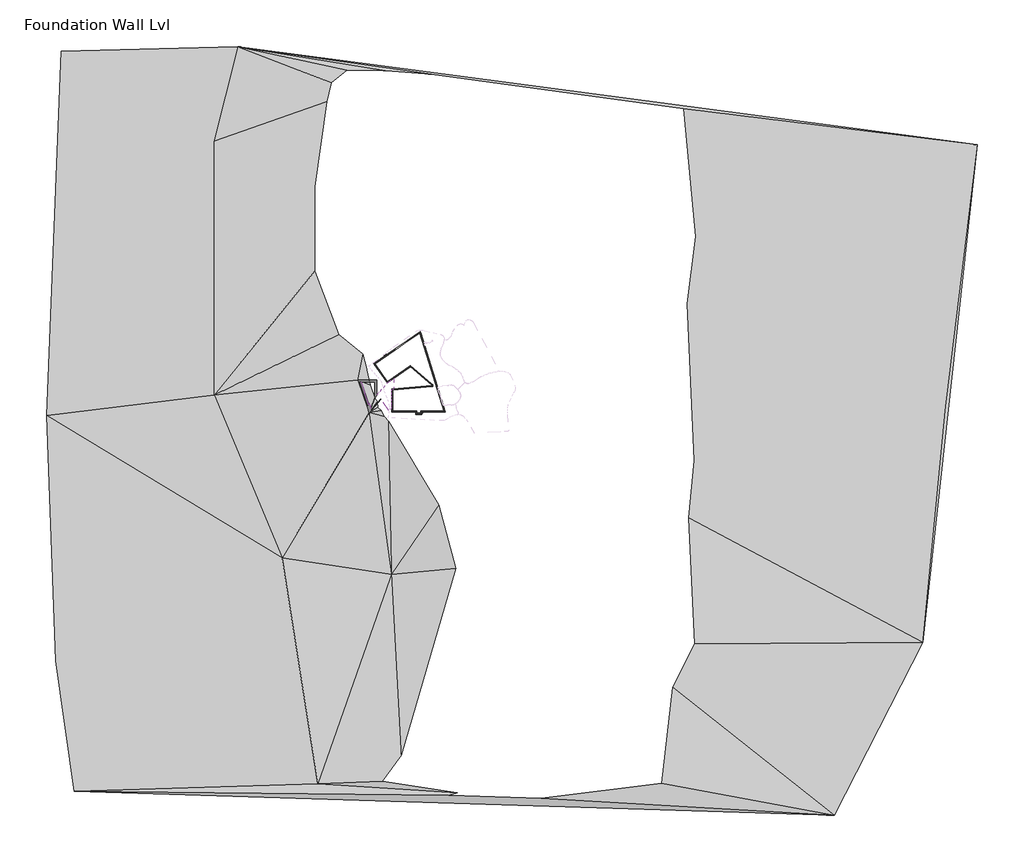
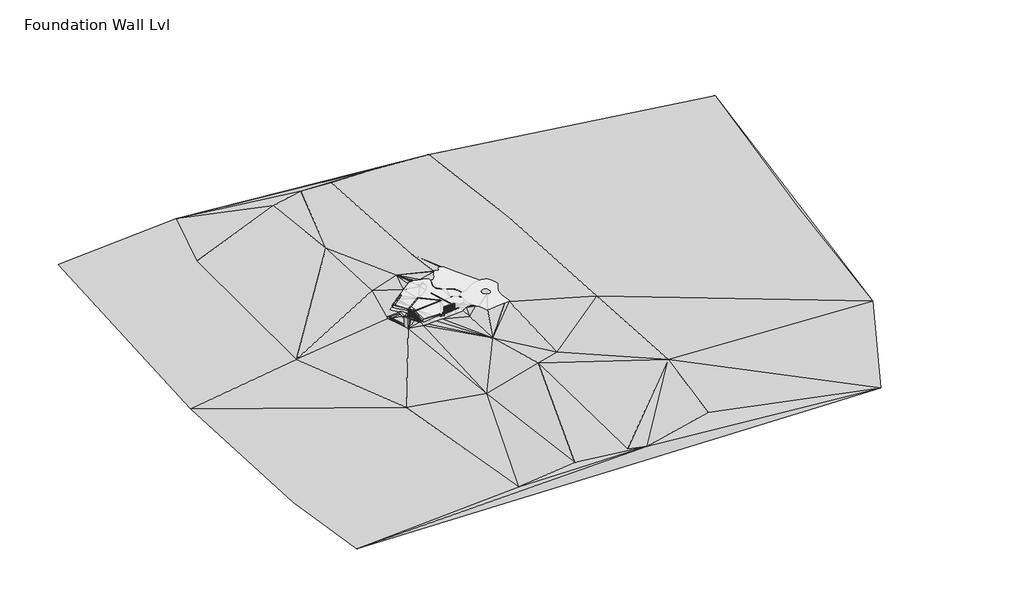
# One storey, part 1 of 2: 16 walls, 3 furniture elements, 2 stairs, 1 proxy.
"""IFC4 building model written with IfcOpenShell, lengths in millimetres."""

from ifc_helpers import new_model, si_unit, frame, origin, place, context, project, spatial, polyline, outline, extrude, faceted_brep, triangles, transform, mapped, element, save
from components import casework_1_casework_1_4e80d40b, casework_2_casework_2_b667cc68, casework_3_casework_3_36dc1b48, stairs_1_stairs_1_18d21c23, stairs_2_stairs_2_ca189b1b, walls_2_walls_2_54b32427

model = new_model("IFC4")

# Units and contexts
model_context = context("Model", 3, world=origin())
ifc_project = project(units=[si_unit("LENGTHUNIT", "METRE", prefix="MILLI")], contexts=[model_context])

# Site, building, storey
site = spatial("IfcSite", under=ifc_project)
building = spatial("IfcBuilding", under=site)
storey = spatial("IfcBuildingStorey", under=building, Name="Foundation Wall Lvl", Elevation=-2600.0)

# Proxy
placement = place(None, origin())
element("IfcBuildingElementProxy", 1, Name="Building Element Proxy", at=placement, inside=storey, context=model_context, shape_type="Tessellation", body=[
    triangles([(-52877.8561157, 103949.4317871, -3000.0000229), (-105067.010083, 102590.3426514, -5000.0000381), (-109416.1027588, -5049.7888596, -5000.0000381), (-106697.9244873, -77625.331604, -5000.0000381), (-101261.5493408, -116223.5570068, -5000.0000381), (123317.5519043, -123230.7479004, -5000.0000381), (149400.8621338, -72152.4005493, -5000.0000381), (165594.9713379, 74911.6042236, -5000.0000381), (13775.4766022, 5546.157399, -130.0574957), (13381.2715942, 6573.0958786, -134.0598858), (12763.2255981, 7601.6964661, -138.6685253), (12061.3835541, 8248.5418671, -142.4082589), (11297.8464386, 8821.2569092, -146.1013292), (10480.407962, 9313.9919495, -149.7100116), (10408.6483887, 9347.8951126, -150.0000011), (9617.4181961, 9721.7170624, -141.4121714), (9049.7034302, 10000.5814362, -135.1684028), (8523.4640396, 10351.4914124, -128.6694172), (8047.7895859, 10768.3834076, -122.0274626), (7630.8970093, 11244.0578613, -115.3572756), (7279.9876144, 11770.2978333, -108.7740837), (7001.1232407, 12338.0120178, -102.3915972), (6917.9538986, 12883.3124542, -97.5939976), (6914.7197937, 13434.9090179, -93.3248268), (6991.488945, 13981.1466064, -89.6742956), (7146.6381958, 14510.4840637, -86.7195432), (7376.8904205, 15011.736026, -84.522984), (7676.8854813, 15651.2876862, -81.7652399), (7891.775853, 16324.2245178, -78.1362917), (8017.9634995, 17019.2786041, -73.6969415), (8053.3351776, 17724.8076324, -68.5215216), (8146.4579819, 17516.6842896, -70.795597), (8306.4197296, 17354.2046722, -73.200719), (8513.0646744, 17257.8442749, -75.4338086), (8740.3525452, 17239.7465424, -77.2134828), (8959.6432297, 17302.1892426, -78.3154686), (9302.6193878, 17495.7553345, -79.3008191), (9620.9040298, 17727.6946655, -79.8126065), (9910.2241608, 17994.8923096, -79.8439364), (10167.4956665, 18318.7806793, -79.2076108), (10358.3107635, 18685.7722321, -77.7598975), (10475.6733673, 19082.4061615, -75.5538776), (10515.2779266, 19494.140332, -72.6704553), (10515.2779266, 19573.4052612, -72.0603272), (10529.2305634, 19659.0767761, -71.5015768), (10569.646701, 19735.895343, -71.2019675), (11892.2589935, 21491.0626282, -67.237284), (12133.7849487, 21736.8406494, -67.0885603), (12430.6935699, 21911.7322998, -67.8851687), (12762.7500458, 22003.8197021, -69.5728246), (13107.3255249, 22006.8264954, -72.0365187), (13440.9388824, 21920.5480408, -75.1083515), (13740.8542969, 21750.8653748, -78.5789791), (13806.6746979, 21701.2660767, -79.4358036), (13894.5914246, 21669.2657043, -80.3166092), (13985.3707672, 21691.8992065, -80.7975573), (14047.9739227, 21761.4275208, -80.7141958), (14547.6852814, 22833.0621094, -76.0719282), (14691.1474548, 23045.7537781, -75.4701527), (14893.3130219, 23203.7022766, -75.7134154), (15134.3936554, 23291.4480835, -76.777908), (15390.7907959, 23300.4010254, -78.5594218), (15637.4048126, 23229.6867371, -80.8835804), (15953.9320038, 23082.0864441, -84.3041202), (16201.5831665, 22932.0932739, -87.24601), (16411.2343231, 22732.4008118, -90.296169), (16573.0965363, 22492.3387207, -93.3121913), (19170.5926392, 17563.1779633, -150.0000011), (21957.1341797, 12275.2739868, -127.3575605), (24210.3896667, 7999.3640533, -131.2463312), (24694.6833618, 8041.7341415, -132.441816), (25162.5501526, 8048.5395401, -133.5839792), (25626.4636963, 7987.4641983, -134.6911155), (26076.6292419, 7859.7975723, -135.7398523), (26807.1520935, 7593.9091507, -137.4197734), (27065.0223999, 7468.8324829, -138.0010969), (27292.0201721, 7293.8635117, -138.488549), (27478.6297119, 7076.3349289, -138.8617094), (27617.0305664, 6825.3630386, -139.1049358), (28903.0288147, 3795.7398239, -141.1039326), (28995.0883118, 3273.6423317, -141.1328552), (29026.4933716, 2863.1700027, -141.0557887), (28977.2126587, 2454.4580315, -140.7828584), (28849.1460571, 2063.2131626, -140.324547), (28647.2118713, 1704.4706703, -139.6984679), (28343.1281067, 1270.1960152, -138.7953344), (27709.2016846, -89.2656542, -136.7426527), (26863.9649048, -1901.881295, -134.0057376), (26721.9945007, -2616.1362442, -133.3927209), (26640.6436523, -3339.805735, -132.9238451), (26620.4867432, -4067.7546158, -132.6024166), (26661.6702759, -4794.8169228, -132.4307338), (27120.7469055, -9430.1505569, -131.8148375), (27104.6990479, -9560.7077042, -131.7269068), (27034.3405518, -9671.849176, -131.5139475), (27009.8536743, -9696.3360535, -131.4451472), (26913.3572388, -9763.278479, -131.1850613), (26799.5269775, -9792.1871796, -130.8969884), (24825.7683838, -9930.2054993, -126.0377192), (17046.7246033, -10474.168808, -189.2564167), (15107.4859955, -6975.6904907, -125.9028165), (14307.126709, -5951.2762756, -108.8874761), (13997.7211761, -5614.8008835, -103.6059216), (13720.040451, -5396.2874771, -100.6828715), (13638.5000793, -5332.1216263, -100.5082637), (13444.9386383, -5224.8293381, -100.076931), (13281.9009155, -5134.4557846, -100.774036), (13238.704715, -5110.5118973, -100.3689644), (12808.6216644, -4955.6719299, -93.5646741), (12359.3142059, -4871.5866554, -83.8802725), (11866.864032, -4960.1600281, -67.2721928), (11536.5562866, -5019.5697739, -66.1874298), (10733.4355408, -5251.5753799, -67.624833), (9958.5084229, -5565.1324036, -73.1863395), (9220.0314056, -5956.8997696, -82.812705), (8774.7254471, -6255.7146698, -91.5298964), (8525.8720322, -6422.7033142, -118.4000132), (8286.3052597, -6548.561911, -142.4862701), (8019.4041092, -6593.2469742, -164.44465), (5181.8337067, -6572.0017593, -372.564323), (2346.0608688, -6468.7865479, -576.3676898), (-485.5460532, -6283.6879623, -775.6846298), (-2893.5916924, -6134.626712, -945.6132837), (-6395.2172012, -5917.8707565, -1158.484956), (-8410.3773376, -5793.1295334, -1310.5176819), (-8228.3785629, -4335.2159065, -1249.6619488), (-8087.3563568, -3205.5531738, -1200.0000092), (-8009.4523911, -2581.4988235, -1116.2708902), (-8378.0211731, -990.6996305, -1036.9188297), (-8753.0215393, 39.6043822, -1017.7466715), (-9339.3874924, 1545.3324188, -998.7884537), (-9457.0169403, 1847.3929058, -1002.7374132), (-9718.3730804, 2518.5291206, -955.3798388), (-9986.5276428, 3453.696167, -871.5951273), (-10093.5943634, 3827.0835503, -896.3100431), (-10297.2110046, 4537.1785789, -906.2836349), (-10673.9356842, 5208.9465866, -953.1027975), (-11126.6417725, 5832.0440186, -1017.5019917), (-11649.1168579, 6397.9176178, -1098.597187), (-12291.7218201, 7056.2780136, -1200.0000092), (-12349.2752838, 7115.2436005, -1204.0212027), (-13003.8411438, 7874.4030762, -1248.0223686), (-13610.3192413, 8672.5026169, -1286.9380165), (-13932.2379639, 9155.3109375, -1306.4369717), (-14166.3992523, 9506.5017105, -1319.4387943), (-12988.6990448, 10409.4541534, -1196.5959291), (-9905.9174469, 12773.0505798, -929.6234894), (-9316.787709, 13237.2978241, -878.3490755), (-8740.1984848, 13717.0313324, -827.6507166), (-7888.2958328, 14413.341156, -752.9983692), (-7006.5752335, 15071.4858673, -677.0035166), (-3733.5706535, 17361.5588745, -398.0144048), (-500.8516233, 19708.1551758, -120.7381245), (-7.0311524, 19975.8295349, -80.2266801), (522.319281, 20163.6994629, -38.8130424), (736.1762129, 20172.108252, -23.453206), (1056.704468, 20184.7074829, -3.9637859), (1087.9279255, 20185.9353149, -2.8357349), (1138.1944794, 20181.3169922, -0.8119869), (1358.6673592, 20161.0600891, -1.4527699), (1651.5991882, 20134.1454529, -3.7740588), (2203.6864197, 20009.2158691, -8.7201476), (2734.741214, 19813.285968, -14.0609604), (4829.8883286, 19329.2503967, -32.9076434), (6940.7757614, 18919.2672821, -51.2979135), (7249.0249695, 18788.406665, -54.529852), (7524.2017776, 18597.5671509, -57.9847828), (7754.7940979, 18354.7319733, -61.518179), (7931.1560074, 18070.0598145, -64.9822209), (8045.9094681, 17755.4592499, -68.2319953), (8007.9524826, 17031.1929932, -73.5329753), (7877.9743698, 16323.0222656, -78.0459447), (7664.2909012, 15651.1865295, -81.67512), (7136.0184952, 14518.3010284, -86.5827238), (6977.5270065, 13965.5754639, -89.6933897), (6903.7652298, 13440.7342438, -93.2009336), (6903.7652298, 12880.7335419, -97.5114444), (6989.0216537, 12342.4431427, -102.2701565), (7269.5795288, 11767.2154633, -108.7226878), (7620.9580811, 11238.2942596, -115.3299153), (8034.3718002, 10769.5565918, -121.9215915), (8513.8134659, 10345.6045624, -128.6450728), (9041.6992676, 9993.7190643, -135.1634613), (10400.6907349, 9340.4345215, -150.0000011), (10470.2155609, 9307.0133057, -149.7173967), (11288.8109436, 8815.1514679, -146.1081057), (12055.5001923, 8237.409407, -142.3921625), (12755.4493286, 7595.0910553, -138.6704965), (13369.6967194, 6572.8115936, -134.090171), (13756.7335602, 5564.5446487, -130.1605508), (14191.1605316, 4632.9145958, -126.3232305), (14198.0949921, 4639.8493469, -126.3244659), (12076.7744751, 2518.5291206, -125.9451649), (12608.0141418, 1792.4936405, -122.4369034), (12536.6371033, 1908.2708759, -122.9605088), (20935.5593262, -206.6307378, -120.1996944), (21141.8351074, -534.9176399, -120.5793224), (21407.6677185, -817.1517208, -121.1212406), (21723.0298645, -1042.6917332, -121.8050197), (22076.0338989, -1203.034199, -122.6048801), (22453.3713318, -1292.1336296, -123.4906545), (22840.8151245, -1306.6307098, -124.4289511), (23162.3954956, -1245.3095982, -125.2351883), (23457.8053711, -1104.21276, -126.0075248), (23707.6133789, -892.6206608, -126.6951555), (23895.3879639, -624.450111, -127.2528522), (24008.7810425, -317.3392419, -127.6439439), (24040.332605, 8.5125567, -127.8427053), (23987.9683594, 331.6733597, -127.836047), (23949.4962891, 724.8312658, -127.8894231), (23816.5369629, 1096.8185165, -127.7047232), (23597.0736145, 1425.2839325, -127.2930478), (23304.2984619, 1690.491291, -126.6791227), (22955.7988037, 1876.505373, -125.8998461), (22572.5152222, 1972.1493896, -125.0020448), (22177.4811951, 1971.6764534, -124.039649), (21794.427832, 1875.1149055, -123.0704948), (21446.3746582, 1688.2668629, -122.1528183), (21154.2343506, 1422.3592564, -121.3417486), (20935.5593262, 1093.3692358, -120.6860383), (20820.9686462, 777.3066965, -120.2886788), (20782.0779968, 443.3692672, -120.0690156), (20820.9686462, 109.4318288, -120.0388212), (8958.9979202, 3761.6288246, -137.8855971), (9769.1025421, 3832.5035683, -135.9118803), (9602.9859375, 3831.1210945, -136.3542861), (48795.2355469, 89270.9789063, -150.0000011), (54550.1865967, 38709.6534851, -200.0000015), (57222.1258301, -23156.0330933, -200.0000015), (59701.1977661, -72795.9519653, -200.0000015), (55324.9207031, -110619.4990723, -200.0000015), (24690.9719604, -117496.5025635, -900.0000069), (25941.3375, -47163.4653809, -600.0000046), (29022.1052673, 26800.0525269, -150.0000011), (25003.5645081, 91314.4727783, -150.0000011), (7871.5218567, 91943.3367187, -300.0000023), (10337.9282867, 35832.5918884, -150.0000011), (13420.9354523, -5274.1780701, -100.0000008), (16298.4098145, -49875.0208008, -500.0000038), (17472.7532501, -115489.9180664, -900.0000069), (9582.9569275, -27077.3774597, -600.0000046), (9007.6437881, -10676.6180786, -300.0000023), (-1289.7946735, 26800.0525269, -300.0000023), (-4704.9224098, 93343.2419678, -600.0000046), (-18354.2482819, 90505.2663574, -1000.0000076), (-13918.2178894, 23335.5895752, -1000.0000076), (-11409.203595, 3000.2011734, -1200.0000092), (-10057.6605103, 1245.3008778, -1200.0000092), (-7484.1641052, -52074.3935303, -5000.0000381), (-4222.3419823, -112961.7375, -900.0000069), (-29229.6460876, -114049.0106689, -3000.0000229), (-39830.5687866, -47181.6596191, -3000.0000229), (-59945.1363647, 930.2185839, -3000.0000229), (-59945.1363647, 75952.1267578, -3000.0000229), (-15266.397226, 55854.1209595, -600.0000046), (155938.7514404, -4322.2044914, -5000.0000381), (-17480.5957947, 5345.5510391, -1700.000013), (-14081.1056213, -4246.7169479, -1700.000013)], [[4, 5, 251], [125, 258, 249], [251, 252, 4], [5, 232, 251], [4, 252, 3], [254, 3, 253], [3, 252, 253], [253, 258, 257], [129, 248, 258], [252, 258, 253], [248, 247, 258], [252, 249, 258], [258, 126, 127], [258, 127, 129], [129, 127, 128], [248, 131, 132], [131, 248, 130], [130, 248, 129], [258, 125, 126], [252, 251, 249], [133, 248, 132], [257, 142, 143], [142, 257, 141], [140, 141, 257], [257, 247, 140], [144, 145, 257], [144, 257, 143], [246, 257, 145], [253, 257, 246], [247, 135, 136], [135, 247, 134], [133, 134, 247], [247, 248, 133], [139, 247, 138], [137, 138, 247], [136, 137, 247], [247, 139, 140], [257, 258, 247], [146, 246, 145], [241, 124, 125], [250, 249, 251], [242, 119, 120], [241, 249, 239], [121, 242, 120], [123, 124, 241], [241, 122, 123], [242, 121, 122], [241, 125, 249], [117, 118, 242], [114, 242, 113], [242, 118, 119], [122, 241, 242], [117, 242, 116], [115, 116, 242], [242, 114, 115], [249, 250, 239], [19, 182, 18], [182, 19, 181], [183, 18, 182], [21, 179, 180], [181, 19, 20], [181, 20, 180], [20, 21, 180], [17, 18, 183], [225, 226, 224], [185, 14, 15], [186, 14, 185], [17, 183, 16], [184, 15, 16], [15, 184, 185], [184, 16, 183], [100, 242, 241], [251, 232, 250], [246, 147, 148], [246, 148, 149], [246, 149, 150], [246, 151, 152], [153, 154, 243], [243, 152, 153], [150, 151, 246], [176, 177, 24], [175, 24, 25], [23, 24, 177], [177, 178, 23], [176, 24, 175], [243, 163, 164], [164, 47, 243], [254, 255, 245], [254, 253, 255], [246, 243, 255], [246, 152, 243], [3, 254, 2], [244, 255, 236], [2, 254, 1], [245, 244, 1], [244, 245, 255], [254, 245, 1], [235, 1, 244], [162, 163, 243], [246, 255, 253], [161, 162, 243], [160, 161, 243], [156, 157, 243], [158, 159, 243], [157, 158, 243], [160, 243, 159], [155, 156, 243], [154, 155, 243], [237, 255, 243], [165, 47, 164], [146, 147, 246], [22, 23, 178], [22, 178, 179], [174, 26, 27], [26, 174, 25], [28, 173, 27], [173, 174, 27], [172, 28, 29], [29, 30, 172], [171, 172, 30], [35, 36, 34], [34, 36, 33], [172, 173, 28], [37, 169, 170], [32, 36, 31], [31, 170, 171], [39, 168, 169], [255, 237, 236], [45, 166, 167], [168, 44, 167], [165, 166, 46], [33, 36, 32], [171, 30, 31], [37, 38, 169], [170, 36, 37], [39, 169, 38], [39, 40, 168], [41, 168, 40], [48, 237, 243], [44, 168, 43], [42, 43, 168], [41, 42, 168], [44, 45, 167], [31, 36, 170], [236, 237, 235], [175, 25, 174], [22, 179, 21], [235, 244, 236], [108, 238, 107], [102, 238, 112], [238, 106, 107], [106, 238, 105], [112, 113, 102], [112, 238, 111], [109, 111, 238], [108, 109, 238], [111, 109, 110], [101, 102, 242], [242, 100, 101], [241, 233, 98], [102, 113, 242], [105, 238, 104], [103, 104, 238], [103, 238, 102], [239, 233, 241], [250, 240, 239], [223, 196, 220], [218, 219, 196], [221, 222, 220], [220, 222, 223], [196, 219, 220], [196, 197, 218], [200, 209, 199], [209, 200, 201], [201, 202, 209], [212, 213, 197], [218, 197, 217], [197, 198, 211], [199, 209, 198], [213, 214, 197], [202, 203, 205], [239, 240, 230], [241, 99, 100], [98, 99, 241], [97, 98, 233], [233, 229, 97], [229, 95, 96], [96, 97, 229], [239, 230, 233], [229, 233, 230], [230, 231, 6], [6, 7, 230], [231, 232, 6], [230, 7, 229], [93, 94, 229], [85, 93, 84], [256, 229, 7], [95, 229, 94], [93, 85, 92], [7, 8, 256], [230, 232, 231], [232, 5, 6], [229, 84, 93], [205, 206, 202], [207, 202, 206], [202, 208, 209], [212, 197, 211], [211, 198, 210], [209, 210, 198], [207, 208, 202], [203, 204, 205], [87, 89, 90], [87, 88, 89], [90, 91, 87], [85, 86, 87], [91, 92, 87], [92, 85, 87], [229, 256, 228], [240, 232, 230], [240, 250, 232], [12, 187, 11], [195, 193, 194], [14, 186, 13], [13, 186, 187], [187, 12, 13], [190, 9, 10], [9, 190, 191], [191, 192, 9], [188, 11, 187], [11, 188, 189], [189, 10, 11], [10, 189, 190], [47, 165, 46], [49, 237, 48], [48, 243, 47], [49, 50, 59], [51, 52, 58], [50, 51, 58], [60, 237, 49], [57, 53, 54], [54, 55, 57], [56, 57, 55], [58, 52, 57], [59, 60, 49], [59, 50, 58], [52, 53, 57], [61, 237, 60], [217, 197, 216], [216, 197, 215], [73, 74, 69], [75, 76, 234], [74, 75, 69], [84, 229, 83], [82, 229, 81], [229, 82, 83], [77, 78, 234], [79, 80, 228], [78, 79, 234], [81, 228, 80], [76, 77, 234], [65, 66, 234], [67, 68, 234], [66, 67, 234], [63, 237, 62], [64, 234, 237], [64, 237, 63], [65, 234, 64], [69, 70, 71], [71, 72, 69], [72, 73, 69], [237, 228, 235], [234, 228, 237], [227, 228, 8], [228, 227, 235], [69, 75, 234], [227, 8, 1], [228, 234, 79], [235, 227, 1], [229, 228, 81], [234, 68, 69], [61, 62, 237], [256, 8, 228], [214, 215, 197], [46, 166, 45]], closed=False),
])

# Furniture
casework_1_casework_1_shape = casework_1_casework_1_4e80d40b(model_context)
element("IfcFurniture", 2, ObjectType="Casework 1 : Casework 1", at=placement, inside=storey, context=model_context, shape_type="MappedRepresentation", body=[
    mapped(casework_1_casework_1_shape, transform((0.0, 0.0, 0.0), x_axis=(1.0, 0.0, 0.0), y_axis=(0.0, 1.0, 0.0), z_axis=(0.0, 0.0, 1.0))),
])
casework_2_casework_2_shape = casework_2_casework_2_b667cc68(model_context)
element("IfcFurniture", 3, ObjectType="Casework 2 : Casework 2", at=placement, inside=storey, context=model_context, shape_type="MappedRepresentation", body=[
    mapped(casework_2_casework_2_shape, transform((0.0, 0.0, 0.0), x_axis=(1.0, 0.0, 0.0), y_axis=(0.0, 1.0, 0.0), z_axis=(0.0, 0.0, 1.0))),
])
casework_3_casework_3_shape = casework_3_casework_3_36dc1b48(model_context)
element("IfcFurniture", 4, ObjectType="Casework 3 : Casework 3", at=placement, inside=storey, context=model_context, shape_type="MappedRepresentation", body=[
    mapped(casework_3_casework_3_shape, transform((0.0, 0.0, 0.0), x_axis=(1.0, 0.0, 0.0), y_axis=(0.0, 1.0, 0.0), z_axis=(0.0, 0.0, 1.0))),
])

# Stairs
stairs_1_stairs_1_shape = stairs_1_stairs_1_18d21c23(model_context)
element("IfcStair", 5, ObjectType="Stairs 1 : Stairs 1", at=placement, inside=storey, context=model_context, shape_type="MappedRepresentation", body=[
    mapped(stairs_1_stairs_1_shape, transform((0.0, 0.0, 0.0), x_axis=(1.0, 0.0, 0.0), y_axis=(0.0, 1.0, 0.0), z_axis=(0.0, 0.0, 1.0))),
])
stairs_2_stairs_2_shape = stairs_2_stairs_2_ca189b1b(model_context)
element("IfcStair", 6, ObjectType="Stairs 2 : Stairs 2", at=placement, inside=storey, context=model_context, shape_type="MappedRepresentation", body=[
    mapped(stairs_2_stairs_2_shape, transform((0.0, 0.0, 0.0), x_axis=(1.0, 0.0, 0.0), y_axis=(0.0, 1.0, 0.0), z_axis=(0.0, 0.0, 1.0))),
])

# Walls
element("IfcWall", 7, ObjectType="DEFAULT", at=placement, inside=storey, context=model_context, shape_type="Brep", body=[
    faceted_brep([(-9496.2147174, 12425.7438296, -2600.0), (-8818.6256757, 12900.1967844, -2600.0), (-8818.6256757, 12900.1967844, -1540.3482769), (-8818.6256757, 12900.1967844, 0.0), (-9496.2147174, 12425.7438296, 0.0), (-9496.2147174, 12425.7438296, -1653.684233), (-9610.9300046, 12589.5742384, -2600.0), (-9610.9300046, 12589.5742384, -1653.684233), (-9610.9300046, 12589.5742384, 0.0), (-8933.3409629, 13064.0271932, 0.0), (-8933.3409629, 13064.0271932, -1540.3482769), (-8933.3409629, 13064.0271932, -2600.0)], [[[0, 1, 2, 3, 4, 5]], [[6, 7, 8, 9, 10, 11]], [[1, 0, 6, 11]], [[3, 2, 1, 11, 10, 9]], [[4, 3, 9, 8]], [[0, 5, 4, 8, 7, 6]]]),
])
element("IfcWall", 8, ObjectType="Foundation Wall", at=placement, inside=storey, context=model_context, shape_type="Brep", body=[
    faceted_brep([(-12546.1067233, 9927.301797, -2600.0), (-12300.3556126, 10099.3785773, -2600.0), (-6400.8226212, 14230.2760498, -2600.0), (-6400.8226212, 14230.2760498, -1540.3482769), (-6400.8226212, 14230.2760498, 0.0), (-12300.3556126, 10099.3785773, 0.0), (-12546.1067233, 9927.301797, 0.0), (-12716.5358842, 10174.1983905, -2600.0), (-12716.5358842, 10174.1983905, 0.0), (-6572.8955521, 14476.0216631, 0.0), (-6572.8955521, 14476.0216631, -1540.3482769), (-6572.8955521, 14476.0216631, -2600.0)], [[[0, 1, 2, 3, 4, 5, 6]], [[7, 8, 9, 10, 11]], [[2, 1, 0, 7, 11]], [[4, 3, 2, 11, 10, 9]], [[6, 5, 4, 9, 8]], [[0, 6, 8, 7]]]),
])
element("IfcWall", 9, ObjectType="Foundation Wall", at=placement, inside=storey, context=model_context, shape_type="Brep", body=[
    faceted_brep([(816.8309194, 19284.1314671, -2600.0), (7993.5360636, -3814.6940133, -2600.0), (8086.7447657, -4114.6940133, -2600.0), (8086.7447657, -4114.6940133, -100.0), (816.8309194, 19284.1314671, -100.0), (1074.8456772, 19464.7953455, -2600.0), (1074.8456772, 19464.7953455, -493.5378128), (1074.8456772, 19464.7953455, -100.0), (8400.891009, -4114.6940133, -100.0), (8400.891009, -4114.6940133, -2600.0)], [[[0, 1, 2, 3, 4]], [[5, 6, 7, 8, 9]], [[2, 1, 0, 5, 9]], [[4, 3, 8, 7]], [[3, 2, 9, 8]], [[0, 4, 7, 6, 5]]]),
])
element("IfcWall", 10, ObjectType="Foundation Wall", at=placement, inside=storey, context=model_context, shape_type="Brep", body=[
    faceted_brep([(7993.5360636, -3814.6940133, -2600.0), (1490.6584713, -3814.6940133, -2600.0), (1490.6584713, -3814.6940133, 0.0), (7993.5360636, -3814.6940133, 0.0), (8086.7447657, -4114.6940133, -2600.0), (8086.7447657, -4114.6940133, -100.0), (8086.7447657, -4114.6940133, 0.0), (1490.6584713, -4114.6940133, 0.0), (1490.6584713, -4114.6940133, -2600.0)], [[[0, 1, 2, 3]], [[4, 5, 6, 7, 8]], [[1, 0, 4, 8]], [[3, 2, 7, 6]], [[0, 3, 6, 5, 4]], [[2, 1, 8, 7]]]),
])
element("IfcWall", 11, ObjectType="Foundation Wall", at=placement, inside=storey, context=model_context, shape_type="Brep", body=[
    faceted_brep([(1190.6584713, -3814.6940133, -2600.0), (1190.6584713, -4452.6528425, -2600.0), (1190.6584713, -4752.6528425, -2600.0), (1190.6584713, -4752.6528425, 0.0), (1190.6584713, -4452.6528425, 0.0), (1190.6584713, -3814.6940133, 0.0), (1490.6584713, -3814.6940133, -2600.0), (1490.6584713, -3814.6940133, 0.0), (1490.6584713, -4114.6940133, 0.0), (1490.6584713, -4752.6528425, 0.0), (1490.6584713, -4752.6528425, -2600.0), (1490.6584713, -4114.6940133, -2600.0)], [[[0, 1, 2, 3, 4, 5]], [[6, 7, 8, 9, 10, 11]], [[2, 1, 0, 6, 11, 10]], [[5, 4, 3, 9, 8, 7]], [[0, 5, 7, 6]], [[3, 2, 10, 9]]]),
])
element("IfcWall", 12, ObjectType="Foundation Wall", at=placement, inside=storey, context=model_context, shape_type="SweptSolid", body=[
    extrude(outline(polyline([(-63.0204162, -4452.6528425), (1190.6584713, -4452.6528425), (1190.6584713, -4752.6528425), (-63.0204162, -4752.6528425), (-63.0204162, -4452.6528425)])), frame((0.0, 0.0, -2600.0), z_axis=(0.0, 0.0, 1.0), x_axis=(1.0, 0.0, 0.0)), (0.0, 0.0, 1.0), 2600.0),
])
element("IfcWall", 13, ObjectType="Foundation Wall", at=placement, inside=storey, context=model_context, shape_type="Brep", body=[
    faceted_brep([(-63.0204162, -4752.6528425, -2600.0), (-63.0204162, -4452.6528425, -2600.0), (-63.0204162, -3844.9753259, -2600.0), (-63.0204162, -3844.9753259, 0.0), (-63.0204162, -4452.6528425, 0.0), (-63.0204162, -4752.6528425, 0.0), (-363.0204162, -4752.6528425, -2600.0), (-363.0204162, -4752.6528425, 0.0), (-363.0204162, -4144.9753259, 0.0), (-363.0204162, -3844.9753259, 0.0), (-363.0204162, -3844.9753259, -2600.0), (-363.0204162, -4144.9753259, -2600.0)], [[[0, 1, 2, 3, 4, 5]], [[6, 7, 8, 9, 10, 11]], [[2, 1, 0, 6, 11, 10]], [[5, 4, 3, 9, 8, 7]], [[0, 5, 7, 6]], [[3, 2, 10, 9]]]),
])
element("IfcWall", 14, ObjectType="Foundation Wall", at=placement, inside=storey, context=model_context, shape_type="Brep", body=[
    faceted_brep([(-363.0204162, -3844.9753259, -2600.0), (-7157.9571443, -3844.9753259, -2600.0), (-7457.9571443, -3844.9753259, -2600.0), (-7457.9571443, -3844.9753259, 0.0), (-7157.9571443, -3844.9753259, 0.0), (-363.0204162, -3844.9753259, 0.0), (-363.0204162, -4144.9753259, -2600.0), (-363.0204162, -4144.9753259, 0.0), (-7457.9571443, -4144.9753259, 0.0), (-7457.9571443, -4144.9753259, -2600.0)], [[[0, 1, 2, 3, 4, 5]], [[6, 7, 8, 9]], [[2, 1, 0, 6, 9]], [[5, 4, 3, 8, 7]], [[0, 5, 7, 6]], [[3, 2, 9, 8]]]),
])
element("IfcWall", 15, ObjectType="Foundation Wall", at=placement, inside=storey, context=model_context, shape_type="Brep", body=[
    faceted_brep([(-7157.9571443, -3844.9753259, -2600.0), (-7157.9571443, 2435.6002353, -2600.0), (-7157.9571443, 2736.7461866, -2600.0), (-7157.9571443, 2736.7461866, 0.0), (-7157.9571443, 2435.6002353, 0.0), (-7157.9571443, -3844.9753259, 0.0), (-7457.9571443, -3844.9753259, -2600.0), (-7457.9571443, -3844.9753259, 0.0), (-7457.9571443, 2710.4995875, 0.0), (-7457.9571443, 2710.4995875, -2600.0)], [[[0, 1, 2, 3, 4, 5]], [[6, 7, 8, 9]], [[2, 1, 0, 6, 9]], [[5, 4, 3, 8, 7]], [[0, 5, 7, 6]], [[3, 2, 9, 8]]]),
])
element("IfcWall", 16, ObjectType="Foundation Wall", at=placement, inside=storey, context=model_context, shape_type="SweptSolid", body=[
    extrude(outline(polyline([(4439.7682518, 3450.2697302), (-7157.9571443, 2435.6002353), (-7157.9571443, 2736.7461866), (4439.7682518, 3751.4156814), (4439.7682518, 3450.2697302)])), frame((0.0, 0.0, -2600.0), z_axis=(0.0, 0.0, 1.0), x_axis=(1.0, 0.0, 0.0)), (0.0, 0.0, 1.0), 2600.0),
])
element("IfcWall", 17, ObjectType="Foundation Wall", at=placement, inside=storey, context=model_context, shape_type="Brep", body=[
    faceted_brep([(4739.7682518, 3476.5163292, -2600.0), (4739.7682518, 3995.3139192, -2600.0), (4739.7682518, 3995.3139192, 0.0), (4739.7682518, 3476.5163292, 0.0), (4439.7682518, 3450.2697302, -2600.0), (4439.7682518, 3450.2697302, 0.0), (4439.7682518, 3751.4156814, 0.0), (4439.7682518, 4248.7742821, 0.0), (4439.7682518, 4248.7742821, -100.0), (4439.7682518, 4248.7742821, -2600.0), (4439.7682518, 3856.0375311, -2600.0), (4439.7682518, 3751.4156814, -2600.0)], [[[0, 1, 2, 3]], [[4, 5, 6, 7, 8, 9, 10, 11]], [[1, 0, 4, 11, 10, 9]], [[3, 2, 7, 6, 5]], [[2, 1, 9, 8, 7]], [[0, 3, 5, 4]]]),
])
element("IfcWall", 18, ObjectType="Foundation Wall", at=placement, inside=storey, context=model_context, shape_type="Brep", body=[
    faceted_brep([(4439.7682518, 4248.7742821, -2600.0), (-1932.9253454, 9632.8583867, -2600.0), (-1932.9253454, 9632.8583867, -100.0), (4439.7682518, 4248.7742821, -100.0), (4439.7682518, 3856.0375311, -2600.0), (4439.7682518, 3856.0375311, -100.0), (-2188.501181, 9456.0494492, -100.0), (-2188.501181, 9456.0494492, -2600.0), (-1951.1101919, 9255.4854285, -2600.0)], [[[0, 1, 2, 3]], [[4, 5, 6, 7, 8]], [[1, 0, 4, 8, 7]], [[3, 2, 6, 5]], [[0, 3, 5, 4]], [[2, 1, 7, 6]]]),
])
element("IfcWall", 19, ObjectType="Foundation Wall", at=placement, inside=storey, context=model_context, shape_type="Brep", body=[
    faceted_brep([(-2188.501181, 9456.0494492, -2600.0), (-8731.6394926, 4929.466057, -2600.0), (-8978.3551749, 4758.7866282, -2600.0), (-8978.3551749, 4758.7866282, 0.0), (-8731.6394926, 4929.466057, 0.0), (-2188.501181, 9456.0494492, 0.0), (-2188.501181, 9456.0494492, -100.0), (-1951.1101919, 9255.4854285, -2600.0), (-1951.1101919, 9255.4854285, 0.0), (-8807.9297362, 4511.8954271, 0.0), (-8807.9297362, 4511.8954271, -2600.0)], [[[0, 1, 2, 3, 4, 5, 6]], [[7, 8, 9, 10]], [[2, 1, 0, 7, 10]], [[5, 4, 3, 9, 8]], [[0, 6, 5, 8, 7]], [[3, 2, 10, 9]]]),
])
element("IfcWall", 20, ObjectType="Foundation Wall", at=placement, inside=storey, context=model_context, shape_type="SweptSolid", body=[
    extrude(outline(polyline([(-12300.3556126, 10099.3785773), (-8731.6394926, 4929.466057), (-8978.3551749, 4758.7866282), (-12546.1067233, 9927.301797), (-12300.3556126, 10099.3785773)])), frame((0.0, 0.0, -2600.0), z_axis=(0.0, 0.0, 1.0), x_axis=(1.0, 0.0, 0.0)), (0.0, 0.0, 1.0), 2600.0),
])
element("IfcWall", 21, ObjectType="Foundation Wall", at=placement, inside=storey, context=model_context, shape_type="Brep", body=[
    faceted_brep([(-6400.8226212, 14230.2760498, -2600.0), (816.8309194, 19284.1314671, -2600.0), (1074.8456772, 19464.7953455, -2600.0), (1074.8456772, 19464.7953455, -493.5378128), (-2410.6084615, 17024.2540835, -493.5378128), (-2410.6084615, 17024.2540835, -424.4301837), (-2709.5989577, 16814.8986842, -424.4301837), (-2709.5989577, 16814.8986842, -1540.3482769), (-6400.8226212, 14230.2760498, -1540.3482769), (-6572.8955521, 14476.0216631, -2600.0), (-6572.8955521, 14476.0216631, -1540.3482769), (-2881.6718886, 17060.6442975, -1540.3482769), (-2881.6718886, 17060.6442975, -424.4301837), (-2582.6813924, 17269.9996968, -424.4301837), (-2582.6813924, 17269.9996968, -493.5378128), (981.3902305, 19765.5895138, -493.5378128), (981.3902305, 19765.5895138, -2600.0)], [[[0, 1, 2, 3, 4, 5, 6, 7, 8]], [[9, 10, 11, 12, 13, 14, 15, 16]], [[2, 1, 0, 9, 16]], [[0, 8, 10, 9]], [[3, 2, 16, 15]], [[13, 5, 4, 14]], [[4, 3, 15, 14]], [[6, 12, 11, 7]], [[8, 7, 11, 10]], [[6, 5, 13, 12]]]),
])
walls_2_walls_2_shape = walls_2_walls_2_54b32427(model_context)
element("IfcWall", 22, ObjectType="Walls 2 : Walls 2", at=placement, inside=storey, context=model_context, shape_type="MappedRepresentation", body=[
    mapped(walls_2_walls_2_shape, transform((0.0, 0.0, 0.0), x_axis=(1.0, 0.0, 0.0), y_axis=(0.0, 1.0, 0.0), z_axis=(0.0, 0.0, 1.0))),
])

save(model, "model.ifc")
